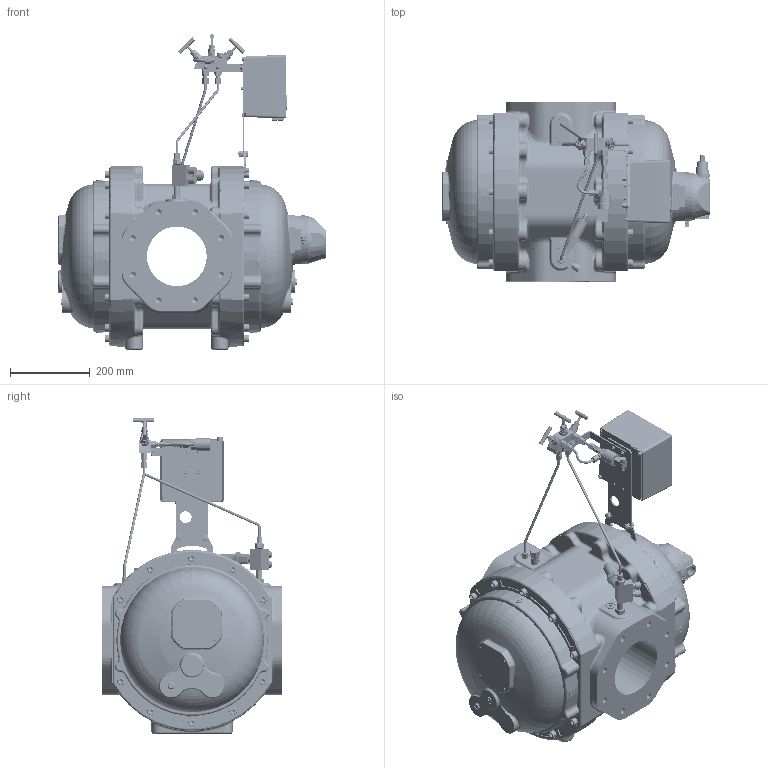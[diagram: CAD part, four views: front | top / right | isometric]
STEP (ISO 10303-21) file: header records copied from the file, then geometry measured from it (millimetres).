
FILE_DESCRIPTION(('STEP AP203'), '1');
FILE_NAME('楥-2230-G400-150', '', ('UNSPECIFIED'), ('UNSPECIFIED'), 'C3D Converter', 'C3D Toolkit', '');
FILE_SCHEMA(('CONFIG_CONTROL_DESIGN'));
Length unit declared in the file: millimetre
Bounding box: 675 x 450 x 793.5 mm (x, y, z)
Volume: 65323286.2 mm3; surface area: 1832582.4 mm2
Topology: 5 solids, 8 shells, 11186 faces, 30920 edges, 20562 vertices
Faces by surface type: plane 5402, extrusion 2990, cylinder 1930, torus 307, bspline 276, cone 266, sphere 15
Full cylindrical faces by diameter (mm): 1 x23, 1.5 x1, 2 x11, 2.2 x1, 2.5 x4, 3 x17, 3.5 x4, 4 x29, 4.4 x1, 4.917 x4, 5 x5, 5.4 x1, 5.5 x5, 6 x15, 6.381 x1, 6.4 x2, 6.5 x9, 7 x14, 7.4 x4, 7.5 x7, 8 x5, 8.466 x1, 8.5 x9, 9.4 x9, 9.526 x2, 9.65 x1, 10 x22, 11 x8, 11.002 x1, 11.835 x2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
Entity records: 539803 total; most frequent: CARTESIAN_POINT 182455, ORIENTED_EDGE 59034, DIRECTION 44866, EDGE_CURVE 30117, VERTEX_POINT 20465, VECTOR 19712, LINE 16722, EDGE_LOOP 12881
